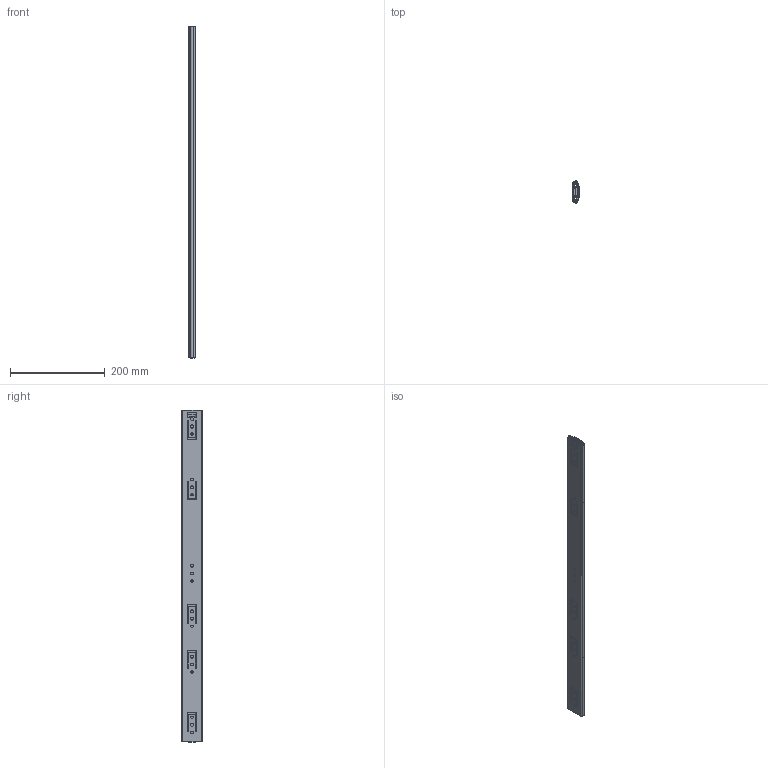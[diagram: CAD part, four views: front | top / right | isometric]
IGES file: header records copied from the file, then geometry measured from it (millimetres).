
Global section: file name: DR_L4-700; native system: Autodesk Inventor 2015; preprocessor: unknown; author: user; date: 20181201.160855; units: millimetre
Bounding box: 12.98 x 46 x 701 mm (x, y, z)
Volume: 155148.5 mm3; surface area: 231655.4 mm2
Topology: 8 solids, 8 shells, 261 faces, 735 edges, 488 vertices
Faces by surface type: bspline 261
